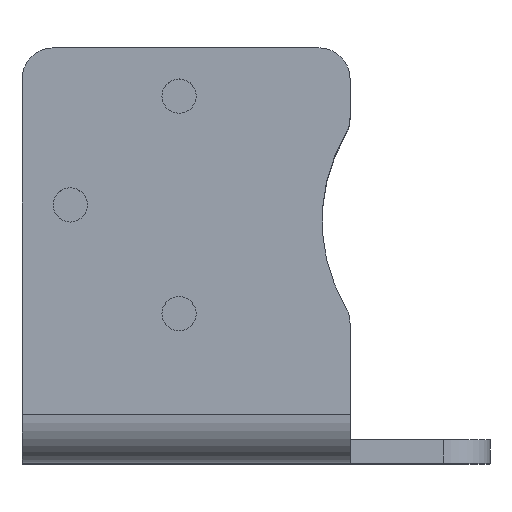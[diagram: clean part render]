
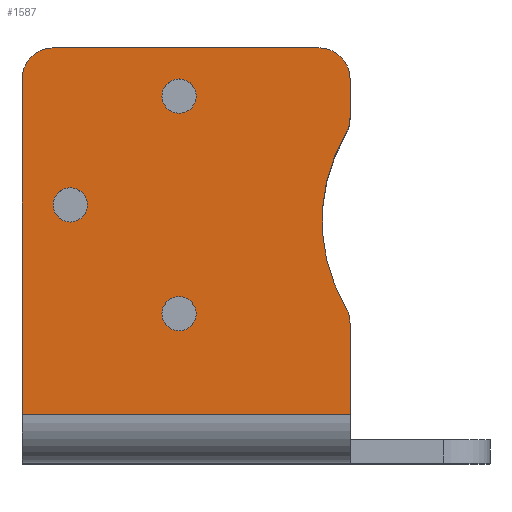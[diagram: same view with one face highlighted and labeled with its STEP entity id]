
A CAD part, top view. The second image highlights one B-rep face of the part: STEP entity #1587.
In plain terms, the highlighted planar face has unit normal (0, 0, 1).
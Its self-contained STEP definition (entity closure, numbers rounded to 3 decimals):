
#38 = DIRECTION ( 'NONE',  ( -1., 0., 0. ) ) ;
#67 = VERTEX_POINT ( 'NONE', #1101 ) ;
#78 = ORIENTED_EDGE ( 'NONE', *, *, #638, .F. ) ;
#96 = ORIENTED_EDGE ( 'NONE', *, *, #1751, .F. ) ;
#98 = DIRECTION ( 'NONE',  ( 0., 0., 1. ) ) ;
#118 = DIRECTION ( 'NONE',  ( -1., 0., 0. ) ) ;
#123 = CARTESIAN_POINT ( 'NONE',  ( -16.95, 15.1, 21.9 ) ) ;
#129 = EDGE_LOOP ( 'NONE', ( #2182, #1224 ) ) ;
#133 = VERTEX_POINT ( 'NONE', #311 ) ;
#140 = EDGE_CURVE ( 'NONE', #949, #553, #589, .T. ) ;
#142 = ORIENTED_EDGE ( 'NONE', *, *, #1685, .F. ) ;
#143 = AXIS2_PLACEMENT_3D ( 'NONE', #1194, #1570, #1727 ) ;
#146 = FACE_BOUND ( 'NONE', #129, .T. ) ;
#175 = FACE_OUTER_BOUND ( 'NONE', #1554, .T. ) ;
#189 = CARTESIAN_POINT ( 'NONE',  ( 1.05, -1.5, 21.9 ) ) ;
#191 = DIRECTION ( 'NONE',  ( 1., 0., 0. ) ) ;
#214 = DIRECTION ( 'NONE',  ( 1., 0., 0. ) ) ;
#239 = VERTEX_POINT ( 'NONE', #1645 ) ;
#252 = EDGE_CURVE ( 'NONE', #1131, #949, #279, .T. ) ;
#263 = DIRECTION ( 'NONE',  ( 1., 0., 0. ) ) ;
#279 = CIRCLE ( 'NONE', #627, 11. ) ;
#289 = DIRECTION ( 'NONE',  ( 1., 0., 0. ) ) ;
#297 = FACE_BOUND ( 'NONE', #1147, .T. ) ;
#311 = CARTESIAN_POINT ( 'NONE',  ( -11.05, 8.1, 21.9 ) ) ;
#319 = AXIS2_PLACEMENT_3D ( 'NONE', #440, #976, #289 ) ;
#323 = CARTESIAN_POINT ( 'NONE',  ( 1.05, 20.7, 21.9 ) ) ;
#349 = LINE ( 'NONE', #189, #1273 ) ;
#364 = DIRECTION ( 'NONE',  ( 0., -1., 0. ) ) ;
#369 = ORIENTED_EDGE ( 'NONE', *, *, #1495, .T. ) ;
#379 = DIRECTION ( 'NONE',  ( 0., 0., 1. ) ) ;
#381 = EDGE_CURVE ( 'NONE', #2085, #1168, #558, .T. ) ;
#385 = VERTEX_POINT ( 'NONE', #1731 ) ;
#400 = DIRECTION ( 'NONE',  ( 1., 0., 0. ) ) ;
#436 = EDGE_LOOP ( 'NONE', ( #2066, #1733 ) ) ;
#440 = CARTESIAN_POINT ( 'NONE',  ( -9.95, 22.1, 21.9 ) ) ;
#468 = DIRECTION ( 'NONE',  ( 0., 1., 0. ) ) ;
#477 = DIRECTION ( 'NONE',  ( -1., 0., 0. ) ) ;
#487 = AXIS2_PLACEMENT_3D ( 'NONE', #807, #989, #477 ) ;
#514 = CARTESIAN_POINT ( 'NONE',  ( 0., 1.65, 21.9 ) ) ;
#541 = CARTESIAN_POINT ( 'NONE',  ( -9.95, 22.1, 21.9 ) ) ;
#547 = DIRECTION ( 'NONE',  ( -1., 0., 0. ) ) ;
#553 = VERTEX_POINT ( 'NONE', #323 ) ;
#558 = CIRCLE ( 'NONE', #1309, 1.1 ) ;
#562 = AXIS2_PLACEMENT_3D ( 'NONE', #1341, #2019, #191 ) ;
#583 = ORIENTED_EDGE ( 'NONE', *, *, #1762, .F. ) ;
#589 = CIRCLE ( 'NONE', #487, 2. ) ;
#627 = AXIS2_PLACEMENT_3D ( 'NONE', #1798, #958, #468 ) ;
#631 = AXIS2_PLACEMENT_3D ( 'NONE', #123, #98, #263 ) ;
#636 = DIRECTION ( 'NONE',  ( 0., 0., -1. ) ) ;
#638 = EDGE_CURVE ( 'NONE', #1168, #2085, #885, .T. ) ;
#652 = PLANE ( 'NONE',  #1244 ) ;
#653 = DIRECTION ( 'NONE',  ( 0., 0., 1. ) ) ;
#663 = CIRCLE ( 'NONE', #143, 2. ) ;
#665 = CIRCLE ( 'NONE', #631, 1.1 ) ;
#666 = AXIS2_PLACEMENT_3D ( 'NONE', #934, #1993, #118 ) ;
#707 = CARTESIAN_POINT ( 'NONE',  ( -9.95, 8.1, 21.9 ) ) ;
#723 = LINE ( 'NONE', #514, #1093 ) ;
#748 = EDGE_CURVE ( 'NONE', #239, #1131, #1593, .T. ) ;
#765 = VERTEX_POINT ( 'NONE', #2033 ) ;
#772 = EDGE_CURVE ( 'NONE', #1291, #765, #994, .T. ) ;
#807 = CARTESIAN_POINT ( 'NONE',  ( -0.95, 20.7, 21.9 ) ) ;
#873 = LINE ( 'NONE', #1547, #1734 ) ;
#885 = CIRCLE ( 'NONE', #319, 1.1 ) ;
#892 = VERTEX_POINT ( 'NONE', #1584 ) ;
#905 = CARTESIAN_POINT ( 'NONE',  ( -18.05, 25.2, 21.9 ) ) ;
#934 = CARTESIAN_POINT ( 'NONE',  ( -0.95, 23.2, 21.9 ) ) ;
#947 = DIRECTION ( 'NONE',  ( 1., 0., 0. ) ) ;
#949 = VERTEX_POINT ( 'NONE', #1014 ) ;
#958 = DIRECTION ( 'NONE',  ( 0., 0., -1. ) ) ;
#968 = CARTESIAN_POINT ( 'NONE',  ( 0.773, 8.515, 21.9 ) ) ;
#976 = DIRECTION ( 'NONE',  ( 0., 0., 1. ) ) ;
#989 = DIRECTION ( 'NONE',  ( 0., 0., 1. ) ) ;
#994 = CIRCLE ( 'NONE', #562, 1.1 ) ;
#1014 = CARTESIAN_POINT ( 'NONE',  ( 0.773, 19.685, 21.9 ) ) ;
#1067 = EDGE_CURVE ( 'NONE', #1389, #67, #1774, .T. ) ;
#1070 = CARTESIAN_POINT ( 'NONE',  ( -18.05, 15.1, 21.9 ) ) ;
#1093 = VECTOR ( 'NONE', #547, 1000. ) ;
#1095 = CARTESIAN_POINT ( 'NONE',  ( -20.05, 0., 21.9 ) ) ;
#1101 = CARTESIAN_POINT ( 'NONE',  ( -0.95, 25.2, 21.9 ) ) ;
#1107 = LINE ( 'NONE', #1095, #1842 ) ;
#1113 = ORIENTED_EDGE ( 'NONE', *, *, #140, .T. ) ;
#1131 = VERTEX_POINT ( 'NONE', #968 ) ;
#1147 = EDGE_LOOP ( 'NONE', ( #1299, #78 ) ) ;
#1160 = CARTESIAN_POINT ( 'NONE',  ( 0., 0., 21.9 ) ) ;
#1168 = VERTEX_POINT ( 'NONE', #1694 ) ;
#1194 = CARTESIAN_POINT ( 'NONE',  ( -18.05, 23.2, 21.9 ) ) ;
#1197 = CARTESIAN_POINT ( 'NONE',  ( -0.95, 7.5, 21.9 ) ) ;
#1207 = CIRCLE ( 'NONE', #1449, 1.1 ) ;
#1211 = CARTESIAN_POINT ( 'NONE',  ( 1.05, -1.5, 21.9 ) ) ;
#1224 = ORIENTED_EDGE ( 'NONE', *, *, #772, .F. ) ;
#1244 = AXIS2_PLACEMENT_3D ( 'NONE', #1160, #636, #1673 ) ;
#1246 = ORIENTED_EDGE ( 'NONE', *, *, #748, .T. ) ;
#1268 = ORIENTED_EDGE ( 'NONE', *, *, #252, .T. ) ;
#1273 = VECTOR ( 'NONE', #1888, 1000. ) ;
#1291 = VERTEX_POINT ( 'NONE', #1070 ) ;
#1299 = ORIENTED_EDGE ( 'NONE', *, *, #381, .F. ) ;
#1308 = VECTOR ( 'NONE', #364, 1000. ) ;
#1309 = AXIS2_PLACEMENT_3D ( 'NONE', #541, #379, #214 ) ;
#1341 = CARTESIAN_POINT ( 'NONE',  ( -16.95, 15.1, 21.9 ) ) ;
#1360 = EDGE_CURVE ( 'NONE', #2114, #133, #1848, .T. ) ;
#1372 = LINE ( 'NONE', #1211, #1308 ) ;
#1389 = VERTEX_POINT ( 'NONE', #1775 ) ;
#1399 = DIRECTION ( 'NONE',  ( 0., 0., 1. ) ) ;
#1449 = AXIS2_PLACEMENT_3D ( 'NONE', #1477, #1783, #947 ) ;
#1477 = CARTESIAN_POINT ( 'NONE',  ( -9.95, 8.1, 21.9 ) ) ;
#1495 = EDGE_CURVE ( 'NONE', #385, #892, #1107, .T. ) ;
#1510 = FACE_BOUND ( 'NONE', #436, .T. ) ;
#1547 = CARTESIAN_POINT ( 'NONE',  ( -20.05, 25.2, 21.9 ) ) ;
#1554 = EDGE_LOOP ( 'NONE', ( #96, #1246, #1268, #1113, #583, #1925, #1948, #1914, #369, #142 ) ) ;
#1570 = DIRECTION ( 'NONE',  ( 0., 0., 1. ) ) ;
#1584 = CARTESIAN_POINT ( 'NONE',  ( -20.05, 1.65, 21.9 ) ) ;
#1587 = ADVANCED_FACE ( 'NONE', ( #175, #1510, #297, #146 ), #652, .F. ) ;
#1593 = CIRCLE ( 'NONE', #1881, 2. ) ;
#1604 = CARTESIAN_POINT ( 'NONE',  ( -8.85, 22.1, 21.9 ) ) ;
#1626 = DIRECTION ( 'NONE',  ( 0., -1., 0. ) ) ;
#1645 = CARTESIAN_POINT ( 'NONE',  ( 1.05, 7.5, 21.9 ) ) ;
#1673 = DIRECTION ( 'NONE',  ( -1., 0., 0. ) ) ;
#1685 = EDGE_CURVE ( 'NONE', #1937, #892, #723, .T. ) ;
#1693 = EDGE_CURVE ( 'NONE', #1959, #385, #663, .T. ) ;
#1694 = CARTESIAN_POINT ( 'NONE',  ( -11.05, 22.1, 21.9 ) ) ;
#1720 = DIRECTION ( 'NONE',  ( -1., 0., 0. ) ) ;
#1727 = DIRECTION ( 'NONE',  ( -1., 0., 0. ) ) ;
#1731 = CARTESIAN_POINT ( 'NONE',  ( -20.05, 23.2, 21.9 ) ) ;
#1733 = ORIENTED_EDGE ( 'NONE', *, *, #2081, .F. ) ;
#1734 = VECTOR ( 'NONE', #38, 1000. ) ;
#1751 = EDGE_CURVE ( 'NONE', #239, #1937, #349, .T. ) ;
#1762 = EDGE_CURVE ( 'NONE', #1389, #553, #1372, .T. ) ;
#1774 = CIRCLE ( 'NONE', #666, 2. ) ;
#1775 = CARTESIAN_POINT ( 'NONE',  ( 1.05, 23.2, 21.9 ) ) ;
#1783 = DIRECTION ( 'NONE',  ( 0., 0., 1. ) ) ;
#1790 = EDGE_CURVE ( 'NONE', #67, #1959, #873, .T. ) ;
#1798 = CARTESIAN_POINT ( 'NONE',  ( 10.25, 14.1, 21.9 ) ) ;
#1842 = VECTOR ( 'NONE', #1626, 1000. ) ;
#1848 = CIRCLE ( 'NONE', #2169, 1.1 ) ;
#1881 = AXIS2_PLACEMENT_3D ( 'NONE', #1197, #653, #1720 ) ;
#1888 = DIRECTION ( 'NONE',  ( 0., -1., 0. ) ) ;
#1914 = ORIENTED_EDGE ( 'NONE', *, *, #1693, .T. ) ;
#1925 = ORIENTED_EDGE ( 'NONE', *, *, #1067, .T. ) ;
#1937 = VERTEX_POINT ( 'NONE', #2083 ) ;
#1948 = ORIENTED_EDGE ( 'NONE', *, *, #1790, .T. ) ;
#1951 = CARTESIAN_POINT ( 'NONE',  ( -8.85, 8.1, 21.9 ) ) ;
#1959 = VERTEX_POINT ( 'NONE', #905 ) ;
#1993 = DIRECTION ( 'NONE',  ( 0., 0., 1. ) ) ;
#2019 = DIRECTION ( 'NONE',  ( 0., 0., 1. ) ) ;
#2033 = CARTESIAN_POINT ( 'NONE',  ( -15.85, 15.1, 21.9 ) ) ;
#2066 = ORIENTED_EDGE ( 'NONE', *, *, #1360, .F. ) ;
#2081 = EDGE_CURVE ( 'NONE', #133, #2114, #1207, .T. ) ;
#2083 = CARTESIAN_POINT ( 'NONE',  ( 1.05, 1.65, 21.9 ) ) ;
#2085 = VERTEX_POINT ( 'NONE', #1604 ) ;
#2114 = VERTEX_POINT ( 'NONE', #1951 ) ;
#2115 = EDGE_CURVE ( 'NONE', #765, #1291, #665, .T. ) ;
#2169 = AXIS2_PLACEMENT_3D ( 'NONE', #707, #1399, #400 ) ;
#2182 = ORIENTED_EDGE ( 'NONE', *, *, #2115, .F. ) ;
